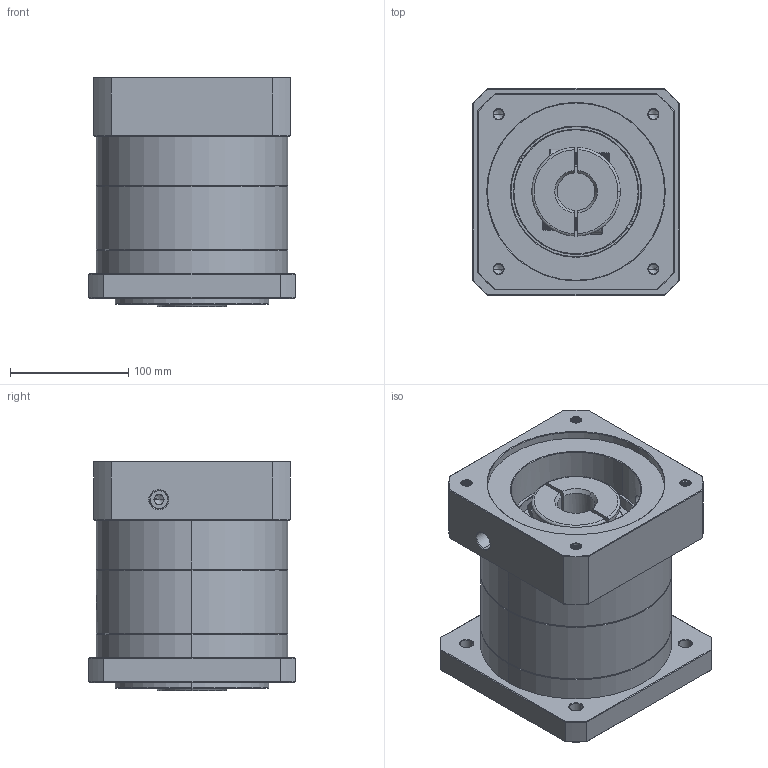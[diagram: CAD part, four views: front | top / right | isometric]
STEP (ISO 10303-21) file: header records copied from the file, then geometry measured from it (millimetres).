
FILE_DESCRIPTION (( 'STEP AP214' ), '1' );
FILE_NAME ('ZF160A-K35-L1-P2-32-150-185-M10.step', '2023-09-03T07:01:47', ( '' ), ( '' ), 'SwSTEP 2.0', 'SolidWorks 2016', '' );
FILE_SCHEMA (( 'AUTOMOTIVE_DESIGN' ));
Length unit declared in the file: millimetre
Products named in the file (1): ZF160A-K35-L1-P2-32-150-185-M10
Bounding box: 175 x 175 x 194.2 mm (x, y, z)
Volume: 3883921.5 mm3; surface area: 322907.2 mm2
Topology: 6 solids, 6 shells, 2146 faces, 5809 edges, 3767 vertices
Faces by surface type: plane 1010, bspline 404, cylinder 392, cone 320, torus 20
Entity records: 118957 total; most frequent: CARTESIAN_POINT 46309, ORIENTED_EDGE 11562, DIRECTION 8453, EDGE_CURVE 5781, VERTEX_POINT 3767, LINE 3011, VECTOR 3011, AXIS2_PLACEMENT_3D 2721
